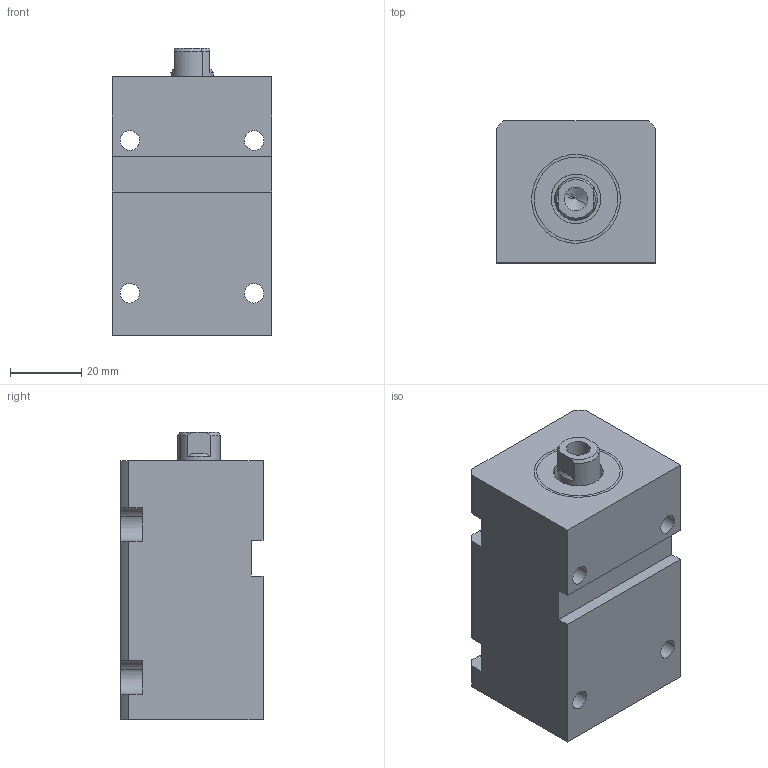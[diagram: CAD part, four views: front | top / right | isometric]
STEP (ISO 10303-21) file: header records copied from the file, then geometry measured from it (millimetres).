
FILE_DESCRIPTION(('CATIA V5 STEP Exchange'),'2;1');
FILE_NAME('\\Kjf-102\kjf_tc\Hydraulic_Clamp\Standard\BLOCK_CLAMP\BDV-20xx\Rev_B\배포도면\BDH-2030_B.stp','2025-03-14T07:17:05+00:00',('none'),('none'),'CATIA Version 5 Release 19 SP 6 (IN-10)','CATIA V5 STEP AP203','none');
FILE_SCHEMA(('CONFIG_CONTROL_DESIGN'));
Length unit declared in the file: millimetre
Products named in the file (1): BDH-20xx_A
Assembly tree (4 placements, depth 2):
  BDH-20xx_A
    #58
    #81
    #1701
    #2287
Bounding box: 45 x 40 x 81 mm (x, y, z)
Volume: 108186.8 mm3; surface area: 30238.6 mm2
Topology: 3 solids, 3 shells, 83 faces, 220 edges, 147 vertices
Faces by surface type: cylinder 40, plane 35, cone 8
Entity records: 2508 total; most frequent: CARTESIAN_POINT 461, ORIENTED_EDGE 436, DIRECTION 322, EDGE_CURVE 218, AXIS2_PLACEMENT_3D 150, VERTEX_POINT 147, VECTOR 116, LINE 116
